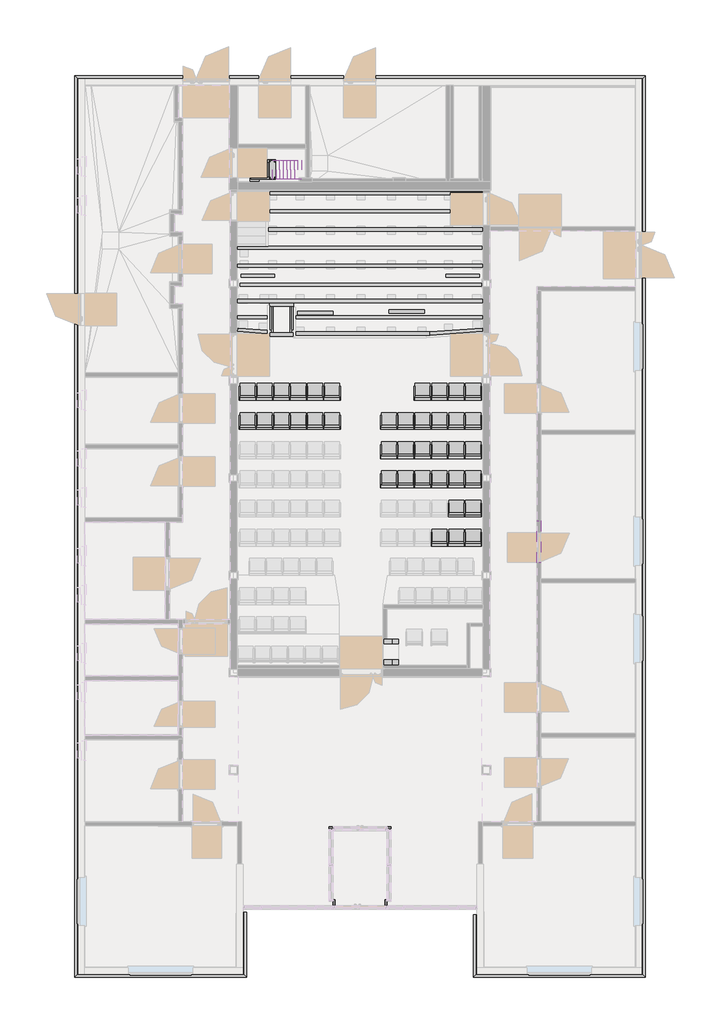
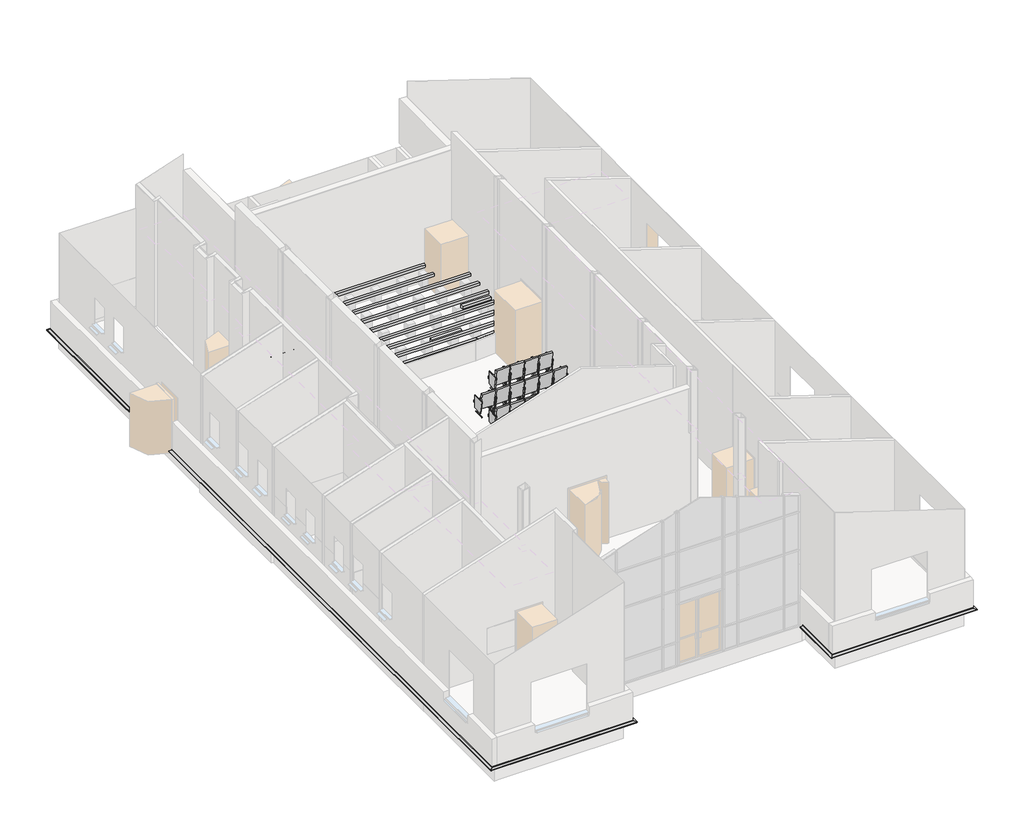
# One storey, part 12 of 12: 130 proxies.
"""IFC4 building model written with IfcOpenShell, lengths in millimetres."""

from ifc_helpers import new_model, si_unit, frame, origin, place, context, project, spatial, polyline, outline, extrude, transform, mapped, element, save
from components import generic_models_f8d5ced3, generic_models_92a117b2, generic_models_e70fa52b, generic_models_542eea26, generic_models_f3d8bb71, generic_models_49eaa156, generic_models_c3cffa9f, mechanical_equipment_249a26df, generic_models_22a26330, generic_models_2d1f44aa, generic_models_467e2e4e, generic_models_172626d7, generic_models_d41d94b2, generic_models_6c975756, generic_models_2fa727b8, generic_models_d63eb119, generic_models_33dcb4cb, generic_models_e0d11672, generic_models_34f736ff, generic_models_ccacc927, generic_models_5f790783, generic_models_916a9b82, generic_models_5b770bf9, generic_models_e5449c6c, generic_models_ce911dc9, generic_models_37c17f33, generic_models_7b0d3cbc, generic_models_94b8cab4, generic_models_9285a14d, generic_models_1dc8325f, generic_models_6abca7a8, generic_models_34106eca, generic_models_431289df, generic_models_d80d0d0e, generic_models_37b758cd, generic_models_313b4dc4, generic_models_b17718e9, entourage_e203a073, generic_models_e4dd3465, generic_models_43c456f0, generic_models_4036496e, generic_models_f3fc682a

model = new_model("IFC4")

# Units and contexts
model_context = context("Model", 3, world=origin())
ifc_project = project(units=[si_unit("LENGTHUNIT", "METRE", prefix="MILLI")], contexts=[model_context])

# Site, building, storey
site = spatial("IfcSite", under=ifc_project)
building = spatial("IfcBuilding", under=site)
storey = spatial("IfcBuildingStorey", under=building, Name="Этаж 01", Elevation=0.0)

# Proxies
placement = place(None, origin())
element("IfcBuildingElementProxy", 1, Name="Брус : 100х100", ObjectType="Брус : 100х100", at=placement, inside=storey, context=model_context, shape_type="SweptSolid", body=[
    extrude(outline(polyline([(6414.4908738, 19405.0), (6414.4908738, 19505.0), (10560.8018559, 19505.0), (10557.122865, 19504.7281928), (10564.4908738, 19405.0), (6414.4908738, 19405.0)])), frame((0.0, 0.0, 640.0), z_axis=(0.0, 0.0, 1.0), x_axis=(1.0, 0.0, 0.0)), (0.0, 0.0, 1.0), 100.0),
])
generic_models_shape = generic_models_f8d5ced3(model_context)
element("IfcBuildingElementProxy", 2, Name="Перемычка_ЖБ_центр_ГОСТ_948-2016_(ОбМодель_Осн-Стена) : 3ПБ13-37", ObjectType="Перемычка_ЖБ_центр_ГОСТ_948-2016_(ОбМодель_Осн-Стена) : 3ПБ13-37", at=placement, inside=storey, context=model_context, shape_type="MappedRepresentation", body=[
    mapped(generic_models_shape, transform((13886.2019131, 12875.68555, 0.0), x_axis=(0.0, 1.0, 0.0), y_axis=(-1.0, 0.0, 0.0), z_axis=(0.0, 0.0, 1.0))),
])
generic_models_2_shape = generic_models_92a117b2(model_context)
element("IfcBuildingElementProxy", 3, Name="Карниз1 : Карниз", ObjectType="Карниз1 : Карниз", at=placement, inside=storey, context=model_context, shape_type="MappedRepresentation", body=[
    mapped(generic_models_2_shape, transform((0.0, 0.0, 0.0), x_axis=(1.0, 0.0, 0.0), y_axis=(0.0, 1.0, 0.0), z_axis=(0.0, 0.0, 1.0))),
])
generic_models_3_shape = generic_models_e70fa52b(model_context)
element("IfcBuildingElementProxy", 4, Name="Карниз2 : Карниз", ObjectType="Карниз2 : Карниз", at=placement, inside=storey, context=model_context, shape_type="MappedRepresentation", body=[
    mapped(generic_models_3_shape, transform((0.0, 0.0, 0.0), x_axis=(1.0, 0.0, 0.0), y_axis=(0.0, 1.0, 0.0), z_axis=(0.0, 0.0, 1.0))),
])
generic_models_4_shape = generic_models_542eea26(model_context)
element("IfcBuildingElementProxy", 5, Name="Карниз3 : Карниз", ObjectType="Карниз3 : Карниз", at=placement, inside=storey, context=model_context, shape_type="MappedRepresentation", body=[
    mapped(generic_models_4_shape, transform((0.0, 0.0, 0.0), x_axis=(1.0, 0.0, 0.0), y_axis=(0.0, 1.0, 0.0), z_axis=(0.0, 0.0, 1.0))),
])
generic_models_5_shape = generic_models_f3d8bb71(model_context)
element("IfcBuildingElementProxy", 6, Name="Карниз4 : Карниз", ObjectType="Карниз4 : Карниз", at=placement, inside=storey, context=model_context, shape_type="MappedRepresentation", body=[
    mapped(generic_models_5_shape, transform((0.0, 50.0, 0.0), x_axis=(1.0, 0.0, 0.0), y_axis=(0.0, 1.0, 0.0), z_axis=(0.0, 0.0, 1.0))),
])
generic_models_6_shape = generic_models_49eaa156(model_context)
element("IfcBuildingElementProxy", 7, Name="Карниз5 : Карниз", ObjectType="Карниз5 : Карниз", at=placement, inside=storey, context=model_context, shape_type="MappedRepresentation", body=[
    mapped(generic_models_6_shape, transform((0.0, 50.0, 0.0), x_axis=(1.0, 0.0, 0.0), y_axis=(0.0, 1.0, 0.0), z_axis=(0.0, 0.0, 1.0))),
])
generic_models_7_shape = generic_models_c3cffa9f(model_context)
element("IfcBuildingElementProxy", 8, Name="Карниз6 : Карниз", ObjectType="Карниз6 : Карниз", at=placement, inside=storey, context=model_context, shape_type="MappedRepresentation", body=[
    mapped(generic_models_7_shape, transform((0.0, 0.0, 0.0), x_axis=(1.0, 0.0, 0.0), y_axis=(0.0, 1.0, 0.0), z_axis=(0.0, 0.0, 1.0))),
])
mechanical_equipment_shape = mechanical_equipment_249a26df(model_context)
element("IfcBuildingElementProxy", 9, Name="Кресло_для_Зрительного_Зала_откидное : Кресло для зрительного зала", ObjectType="Кресло_для_Зрительного_Зала_откидное : Кресло для зрительного зала", at=placement, inside=storey, context=model_context, shape_type="MappedRepresentation", body=[
    mapped(mechanical_equipment_shape, transform((4935.7752906, 17601.0428648, 0.0), x_axis=(0.0, 1.0, 0.0), y_axis=(-1.0, 0.0, 0.0), z_axis=(0.0, 0.0, 1.0))),
])
element("IfcBuildingElementProxy", 10, Name="Кресло_для_Зрительного_Зала_откидное : Кресло для зрительного зала", ObjectType="Кресло_для_Зрительного_Зала_откидное : Кресло для зрительного зала", at=placement, inside=storey, context=model_context, shape_type="MappedRepresentation", body=[
    mapped(mechanical_equipment_shape, transform((5455.4869141, 17601.0428648, 0.0), x_axis=(0.0, 1.0, 0.0), y_axis=(-1.0, 0.0, 0.0), z_axis=(0.0, 0.0, 1.0))),
])
element("IfcBuildingElementProxy", 11, Name="Кресло_для_Зрительного_Зала_откидное : Кресло для зрительного зала", ObjectType="Кресло_для_Зрительного_Зала_откидное : Кресло для зрительного зала", at=placement, inside=storey, context=model_context, shape_type="MappedRepresentation", body=[
    mapped(mechanical_equipment_shape, transform((5975.1985376, 17601.0428648, 0.0), x_axis=(0.0, 1.0, 0.0), y_axis=(-1.0, 0.0, 0.0), z_axis=(0.0, 0.0, 1.0))),
])
element("IfcBuildingElementProxy", 12, Name="Кресло_для_Зрительного_Зала_откидное : Кресло для зрительного зала", ObjectType="Кресло_для_Зрительного_Зала_откидное : Кресло для зрительного зала", at=placement, inside=storey, context=model_context, shape_type="MappedRepresentation", body=[
    mapped(mechanical_equipment_shape, transform((6494.9101612, 17601.0428648, 0.0), x_axis=(0.0, 1.0, 0.0), y_axis=(-1.0, 0.0, 0.0), z_axis=(0.0, 0.0, 1.0))),
])
element("IfcBuildingElementProxy", 13, Name="Кресло_для_Зрительного_Зала_откидное : Кресло для зрительного зала", ObjectType="Кресло_для_Зрительного_Зала_откидное : Кресло для зрительного зала", at=placement, inside=storey, context=model_context, shape_type="MappedRepresentation", body=[
    mapped(mechanical_equipment_shape, transform((7014.6217847, 17601.0428648, 0.0), x_axis=(0.0, 1.0, 0.0), y_axis=(-1.0, 0.0, 0.0), z_axis=(0.0, 0.0, 1.0))),
])
element("IfcBuildingElementProxy", 14, Name="Кресло_для_Зрительного_Зала_откидное : Кресло для зрительного зала", ObjectType="Кресло_для_Зрительного_Зала_откидное : Кресло для зрительного зала", at=placement, inside=storey, context=model_context, shape_type="MappedRepresentation", body=[
    mapped(mechanical_equipment_shape, transform((7534.3334082, 17601.0428648, 0.0), x_axis=(0.0, 1.0, 0.0), y_axis=(-1.0, 0.0, 0.0), z_axis=(0.0, 0.0, 1.0))),
])
element("IfcBuildingElementProxy", 15, Name="Кресло_для_Зрительного_Зала_откидное : Кресло для зрительного зала", ObjectType="Кресло_для_Зрительного_Зала_откидное : Кресло для зрительного зала", at=placement, inside=storey, context=model_context, shape_type="MappedRepresentation", body=[
    mapped(mechanical_equipment_shape, transform((4935.7752906, 16700.0008486, 0.0), x_axis=(0.0, 1.0, 0.0), y_axis=(-1.0, 0.0, 0.0), z_axis=(0.0, 0.0, 1.0))),
])
element("IfcBuildingElementProxy", 16, Name="Кресло_для_Зрительного_Зала_откидное : Кресло для зрительного зала", ObjectType="Кресло_для_Зрительного_Зала_откидное : Кресло для зрительного зала", at=placement, inside=storey, context=model_context, shape_type="MappedRepresentation", body=[
    mapped(mechanical_equipment_shape, transform((5455.4869141, 16700.0008486, 0.0), x_axis=(0.0, 1.0, 0.0), y_axis=(-1.0, 0.0, 0.0), z_axis=(0.0, 0.0, 1.0))),
])
element("IfcBuildingElementProxy", 17, Name="Кресло_для_Зрительного_Зала_откидное : Кресло для зрительного зала", ObjectType="Кресло_для_Зрительного_Зала_откидное : Кресло для зрительного зала", at=placement, inside=storey, context=model_context, shape_type="MappedRepresentation", body=[
    mapped(mechanical_equipment_shape, transform((5975.1985376, 16700.0008486, 0.0), x_axis=(0.0, 1.0, 0.0), y_axis=(-1.0, 0.0, 0.0), z_axis=(0.0, 0.0, 1.0))),
])
element("IfcBuildingElementProxy", 18, Name="Кресло_для_Зрительного_Зала_откидное : Кресло для зрительного зала", ObjectType="Кресло_для_Зрительного_Зала_откидное : Кресло для зрительного зала", at=placement, inside=storey, context=model_context, shape_type="MappedRepresentation", body=[
    mapped(mechanical_equipment_shape, transform((6494.9101612, 16700.0008486, 0.0), x_axis=(0.0, 1.0, 0.0), y_axis=(-1.0, 0.0, 0.0), z_axis=(0.0, 0.0, 1.0))),
])
element("IfcBuildingElementProxy", 19, Name="Кресло_для_Зрительного_Зала_откидное : Кресло для зрительного зала", ObjectType="Кресло_для_Зрительного_Зала_откидное : Кресло для зрительного зала", at=placement, inside=storey, context=model_context, shape_type="MappedRepresentation", body=[
    mapped(mechanical_equipment_shape, transform((7014.6217847, 16700.0008486, 0.0), x_axis=(0.0, 1.0, 0.0), y_axis=(-1.0, 0.0, 0.0), z_axis=(0.0, 0.0, 1.0))),
])
element("IfcBuildingElementProxy", 20, Name="Кресло_для_Зрительного_Зала_откидное : Кресло для зрительного зала", ObjectType="Кресло_для_Зрительного_Зала_откидное : Кресло для зрительного зала", at=placement, inside=storey, context=model_context, shape_type="MappedRepresentation", body=[
    mapped(mechanical_equipment_shape, transform((7534.3334082, 16700.0008486, 0.0), x_axis=(0.0, 1.0, 0.0), y_axis=(-1.0, 0.0, 0.0), z_axis=(0.0, 0.0, 1.0))),
])
element("IfcBuildingElementProxy", 21, Name="Кресло_для_Зрительного_Зала_откидное : Кресло для зрительного зала", ObjectType="Кресло_для_Зрительного_Зала_откидное : Кресло для зрительного зала", at=placement, inside=storey, context=model_context, shape_type="MappedRepresentation", body=[
    mapped(mechanical_equipment_shape, transform((9291.069541, 16698.9276427, 0.0), x_axis=(0.0, 1.0, 0.0), y_axis=(-1.0, 0.0, 0.0), z_axis=(0.0, 0.0, 1.0))),
])
element("IfcBuildingElementProxy", 22, Name="Кресло_для_Зрительного_Зала_откидное : Кресло для зрительного зала", ObjectType="Кресло_для_Зрительного_Зала_откидное : Кресло для зрительного зала", at=placement, inside=storey, context=model_context, shape_type="MappedRepresentation", body=[
    mapped(mechanical_equipment_shape, transform((9810.7811645, 16698.9276427, 0.0), x_axis=(0.0, 1.0, 0.0), y_axis=(-1.0, 0.0, 0.0), z_axis=(0.0, 0.0, 1.0))),
])
element("IfcBuildingElementProxy", 23, Name="Кресло_для_Зрительного_Зала_откидное : Кресло для зрительного зала", ObjectType="Кресло_для_Зрительного_Зала_откидное : Кресло для зрительного зала", at=placement, inside=storey, context=model_context, shape_type="MappedRepresentation", body=[
    mapped(mechanical_equipment_shape, transform((10330.4927881, 16698.9276427, 0.0), x_axis=(0.0, 1.0, 0.0), y_axis=(-1.0, 0.0, 0.0), z_axis=(0.0, 0.0, 1.0))),
])
element("IfcBuildingElementProxy", 24, Name="Кресло_для_Зрительного_Зала_откидное : Кресло для зрительного зала", ObjectType="Кресло_для_Зрительного_Зала_откидное : Кресло для зрительного зала", at=placement, inside=storey, context=model_context, shape_type="MappedRepresentation", body=[
    mapped(mechanical_equipment_shape, transform((10850.2044116, 16698.9276427, 0.0), x_axis=(0.0, 1.0, 0.0), y_axis=(-1.0, 0.0, 0.0), z_axis=(0.0, 0.0, 1.0))),
])
element("IfcBuildingElementProxy", 25, Name="Кресло_для_Зрительного_Зала_откидное : Кресло для зрительного зала", ObjectType="Кресло_для_Зрительного_Зала_откидное : Кресло для зрительного зала", at=placement, inside=storey, context=model_context, shape_type="MappedRepresentation", body=[
    mapped(mechanical_equipment_shape, transform((11369.9160351, 16698.9276427, 0.0), x_axis=(0.0, 1.0, 0.0), y_axis=(-1.0, 0.0, 0.0), z_axis=(0.0, 0.0, 1.0))),
])
element("IfcBuildingElementProxy", 26, Name="Кресло_для_Зрительного_Зала_откидное : Кресло для зрительного зала", ObjectType="Кресло_для_Зрительного_Зала_откидное : Кресло для зрительного зала", at=placement, inside=storey, context=model_context, shape_type="MappedRepresentation", body=[
    mapped(mechanical_equipment_shape, transform((11889.6276587, 16698.9276427, 0.0), x_axis=(0.0, 1.0, 0.0), y_axis=(-1.0, 0.0, 0.0), z_axis=(0.0, 0.0, 1.0))),
])
element("IfcBuildingElementProxy", 27, Name="Кресло_для_Зрительного_Зала_откидное : Кресло для зрительного зала", ObjectType="Кресло_для_Зрительного_Зала_откидное : Кресло для зрительного зала", at=placement, inside=storey, context=model_context, shape_type="MappedRepresentation", body=[
    mapped(mechanical_equipment_shape, transform((9291.069541, 15799.9852537, 0.0), x_axis=(0.0, 1.0, 0.0), y_axis=(-1.0, 0.0, 0.0), z_axis=(0.0, 0.0, 1.0))),
])
element("IfcBuildingElementProxy", 28, Name="Кресло_для_Зрительного_Зала_откидное : Кресло для зрительного зала", ObjectType="Кресло_для_Зрительного_Зала_откидное : Кресло для зрительного зала", at=placement, inside=storey, context=model_context, shape_type="MappedRepresentation", body=[
    mapped(mechanical_equipment_shape, transform((9810.7811645, 15799.9852537, 0.0), x_axis=(0.0, 1.0, 0.0), y_axis=(-1.0, 0.0, 0.0), z_axis=(0.0, 0.0, 1.0))),
])
element("IfcBuildingElementProxy", 29, Name="Кресло_для_Зрительного_Зала_откидное : Кресло для зрительного зала", ObjectType="Кресло_для_Зрительного_Зала_откидное : Кресло для зрительного зала", at=placement, inside=storey, context=model_context, shape_type="MappedRepresentation", body=[
    mapped(mechanical_equipment_shape, transform((10330.4927881, 15799.9852537, 0.0), x_axis=(0.0, 1.0, 0.0), y_axis=(-1.0, 0.0, 0.0), z_axis=(0.0, 0.0, 1.0))),
])
element("IfcBuildingElementProxy", 30, Name="Кресло_для_Зрительного_Зала_откидное : Кресло для зрительного зала", ObjectType="Кресло_для_Зрительного_Зала_откидное : Кресло для зрительного зала", at=placement, inside=storey, context=model_context, shape_type="MappedRepresentation", body=[
    mapped(mechanical_equipment_shape, transform((10850.2044116, 15799.9852537, 0.0), x_axis=(0.0, 1.0, 0.0), y_axis=(-1.0, 0.0, 0.0), z_axis=(0.0, 0.0, 1.0))),
])
element("IfcBuildingElementProxy", 31, Name="Кресло_для_Зрительного_Зала_откидное : Кресло для зрительного зала", ObjectType="Кресло_для_Зрительного_Зала_откидное : Кресло для зрительного зала", at=placement, inside=storey, context=model_context, shape_type="MappedRepresentation", body=[
    mapped(mechanical_equipment_shape, transform((11369.9160351, 15799.9852537, 0.0), x_axis=(0.0, 1.0, 0.0), y_axis=(-1.0, 0.0, 0.0), z_axis=(0.0, 0.0, 1.0))),
])
element("IfcBuildingElementProxy", 32, Name="Кресло_для_Зрительного_Зала_откидное : Кресло для зрительного зала", ObjectType="Кресло_для_Зрительного_Зала_откидное : Кресло для зрительного зала", at=placement, inside=storey, context=model_context, shape_type="MappedRepresentation", body=[
    mapped(mechanical_equipment_shape, transform((11889.6276587, 15799.9852537, 0.0), x_axis=(0.0, 1.0, 0.0), y_axis=(-1.0, 0.0, 0.0), z_axis=(0.0, 0.0, 1.0))),
])
element("IfcBuildingElementProxy", 33, Name="Кресло_для_Зрительного_Зала_откидное : Кресло для зрительного зала", ObjectType="Кресло_для_Зрительного_Зала_откидное : Кресло для зрительного зала", at=placement, inside=storey, context=model_context, shape_type="MappedRepresentation", body=[
    mapped(mechanical_equipment_shape, transform((9291.069541, 14899.7169523, 0.0), x_axis=(0.0, 1.0, 0.0), y_axis=(-1.0, 0.0, 0.0), z_axis=(0.0, 0.0, 1.0))),
])
element("IfcBuildingElementProxy", 34, Name="Кресло_для_Зрительного_Зала_откидное : Кресло для зрительного зала", ObjectType="Кресло_для_Зрительного_Зала_откидное : Кресло для зрительного зала", at=placement, inside=storey, context=model_context, shape_type="MappedRepresentation", body=[
    mapped(mechanical_equipment_shape, transform((9810.7811645, 14899.7169523, 0.0), x_axis=(0.0, 1.0, 0.0), y_axis=(-1.0, 0.0, 0.0), z_axis=(0.0, 0.0, 1.0))),
])
element("IfcBuildingElementProxy", 35, Name="Кресло_для_Зрительного_Зала_откидное : Кресло для зрительного зала", ObjectType="Кресло_для_Зрительного_Зала_откидное : Кресло для зрительного зала", at=placement, inside=storey, context=model_context, shape_type="MappedRepresentation", body=[
    mapped(mechanical_equipment_shape, transform((10330.4927881, 14899.7169523, 0.0), x_axis=(0.0, 1.0, 0.0), y_axis=(-1.0, 0.0, 0.0), z_axis=(0.0, 0.0, 1.0))),
])
element("IfcBuildingElementProxy", 36, Name="Кресло_для_Зрительного_Зала_откидное : Кресло для зрительного зала", ObjectType="Кресло_для_Зрительного_Зала_откидное : Кресло для зрительного зала", at=placement, inside=storey, context=model_context, shape_type="MappedRepresentation", body=[
    mapped(mechanical_equipment_shape, transform((10850.2044116, 14899.7169523, 0.0), x_axis=(0.0, 1.0, 0.0), y_axis=(-1.0, 0.0, 0.0), z_axis=(0.0, 0.0, 1.0))),
])
element("IfcBuildingElementProxy", 37, Name="Кресло_для_Зрительного_Зала_откидное : Кресло для зрительного зала", ObjectType="Кресло_для_Зрительного_Зала_откидное : Кресло для зрительного зала", at=placement, inside=storey, context=model_context, shape_type="MappedRepresentation", body=[
    mapped(mechanical_equipment_shape, transform((11369.9160351, 14899.7169523, 0.0), x_axis=(0.0, 1.0, 0.0), y_axis=(-1.0, 0.0, 0.0), z_axis=(0.0, 0.0, 1.0))),
])
element("IfcBuildingElementProxy", 38, Name="Кресло_для_Зрительного_Зала_откидное : Кресло для зрительного зала", ObjectType="Кресло_для_Зрительного_Зала_откидное : Кресло для зрительного зала", at=placement, inside=storey, context=model_context, shape_type="MappedRepresentation", body=[
    mapped(mechanical_equipment_shape, transform((11889.6276587, 14899.7169523, 0.0), x_axis=(0.0, 1.0, 0.0), y_axis=(-1.0, 0.0, 0.0), z_axis=(0.0, 0.0, 1.0))),
])
element("IfcBuildingElementProxy", 39, Name="Кресло_для_Зрительного_Зала_откидное : Кресло для зрительного зала", ObjectType="Кресло_для_Зрительного_Зала_откидное : Кресло для зрительного зала", at=placement, inside=storey, context=model_context, shape_type="MappedRepresentation", body=[
    mapped(mechanical_equipment_shape, transform((11369.9160351, 13999.7169523, 0.0), x_axis=(0.0, 1.0, 0.0), y_axis=(-1.0, 0.0, 0.0), z_axis=(0.0, 0.0, 1.0))),
])
element("IfcBuildingElementProxy", 40, Name="Кресло_для_Зрительного_Зала_откидное : Кресло для зрительного зала", ObjectType="Кресло_для_Зрительного_Зала_откидное : Кресло для зрительного зала", at=placement, inside=storey, context=model_context, shape_type="MappedRepresentation", body=[
    mapped(mechanical_equipment_shape, transform((11889.6276587, 13999.7169523, 0.0), x_axis=(0.0, 1.0, 0.0), y_axis=(-1.0, 0.0, 0.0), z_axis=(0.0, 0.0, 1.0))),
])
element("IfcBuildingElementProxy", 41, Name="Кресло_для_Зрительного_Зала_откидное : Кресло для зрительного зала", ObjectType="Кресло_для_Зрительного_Зала_откидное : Кресло для зрительного зала", at=placement, inside=storey, context=model_context, shape_type="MappedRepresentation", body=[
    mapped(mechanical_equipment_shape, transform((10850.2044116, 13099.7169523, 0.0), x_axis=(0.0, 1.0, 0.0), y_axis=(-1.0, 0.0, 0.0), z_axis=(0.0, 0.0, 1.0))),
])
element("IfcBuildingElementProxy", 42, Name="Кресло_для_Зрительного_Зала_откидное : Кресло для зрительного зала", ObjectType="Кресло_для_Зрительного_Зала_откидное : Кресло для зрительного зала", at=placement, inside=storey, context=model_context, shape_type="MappedRepresentation", body=[
    mapped(mechanical_equipment_shape, transform((11369.9160351, 13099.7169523, 0.0), x_axis=(0.0, 1.0, 0.0), y_axis=(-1.0, 0.0, 0.0), z_axis=(0.0, 0.0, 1.0))),
])
element("IfcBuildingElementProxy", 43, Name="Кресло_для_Зрительного_Зала_откидное : Кресло для зрительного зала", ObjectType="Кресло_для_Зрительного_Зала_откидное : Кресло для зрительного зала", at=placement, inside=storey, context=model_context, shape_type="MappedRepresentation", body=[
    mapped(mechanical_equipment_shape, transform((11889.6276587, 13099.7169523, 0.0), x_axis=(0.0, 1.0, 0.0), y_axis=(-1.0, 0.0, 0.0), z_axis=(0.0, 0.0, 1.0))),
])
element("IfcBuildingElementProxy", 44, Name="Кресло_для_Зрительного_Зала_откидное : Кресло для зрительного зала", ObjectType="Кресло_для_Зрительного_Зала_откидное : Кресло для зрительного зала", at=placement, inside=storey, context=model_context, shape_type="MappedRepresentation", body=[
    mapped(mechanical_equipment_shape, transform((10330.4927881, 17599.732547, 0.0), x_axis=(0.0, 1.0, 0.0), y_axis=(-1.0, 0.0, 0.0), z_axis=(0.0, 0.0, 1.0))),
])
element("IfcBuildingElementProxy", 45, Name="Кресло_для_Зрительного_Зала_откидное : Кресло для зрительного зала", ObjectType="Кресло_для_Зрительного_Зала_откидное : Кресло для зрительного зала", at=placement, inside=storey, context=model_context, shape_type="MappedRepresentation", body=[
    mapped(mechanical_equipment_shape, transform((10850.2044116, 17599.732547, 0.0), x_axis=(0.0, 1.0, 0.0), y_axis=(-1.0, 0.0, 0.0), z_axis=(0.0, 0.0, 1.0))),
])
element("IfcBuildingElementProxy", 46, Name="Кресло_для_Зрительного_Зала_откидное : Кресло для зрительного зала", ObjectType="Кресло_для_Зрительного_Зала_откидное : Кресло для зрительного зала", at=placement, inside=storey, context=model_context, shape_type="MappedRepresentation", body=[
    mapped(mechanical_equipment_shape, transform((11369.9160351, 17599.732547, 0.0), x_axis=(0.0, 1.0, 0.0), y_axis=(-1.0, 0.0, 0.0), z_axis=(0.0, 0.0, 1.0))),
])
element("IfcBuildingElementProxy", 47, Name="Кресло_для_Зрительного_Зала_откидное : Кресло для зрительного зала", ObjectType="Кресло_для_Зрительного_Зала_откидное : Кресло для зрительного зала", at=placement, inside=storey, context=model_context, shape_type="MappedRepresentation", body=[
    mapped(mechanical_equipment_shape, transform((11889.6276587, 17599.732547, 0.0), x_axis=(0.0, 1.0, 0.0), y_axis=(-1.0, 0.0, 0.0), z_axis=(0.0, 0.0, 1.0))),
])
generic_models_8_shape = generic_models_22a26330(model_context)
element("IfcBuildingElementProxy", 48, Name="Брус : 100х100", ObjectType="Брус : 100х100", at=placement, inside=storey, context=model_context, shape_type="MappedRepresentation", body=[
    mapped(generic_models_8_shape, transform((4615.0, 20510.0, 740.0), x_axis=(0.0, -1.0, 0.0), y_axis=(0.0, 0.0, -1.0), z_axis=(1.0, 0.0, 0.0))),
])
element("IfcBuildingElementProxy", 49, Name="Брус : 100х100", ObjectType="Брус : 100х100", at=placement, inside=storey, context=model_context, shape_type="MappedRepresentation", body=[
    mapped(generic_models_8_shape, transform((4615.0, 21590.0, 740.0), x_axis=(0.0, -1.0, 0.0), y_axis=(0.0, 0.0, -1.0), z_axis=(1.0, 0.0, 0.0))),
])
element("IfcBuildingElementProxy", 50, Name="Брус : 100х100", ObjectType="Брус : 100х100", at=placement, inside=storey, context=model_context, shape_type="MappedRepresentation", body=[
    mapped(generic_models_8_shape, transform((4605.0, 22150.0, 740.0), x_axis=(0.0, -1.0, 0.0), y_axis=(0.0, 0.0, -1.0), z_axis=(1.0, 0.0, 0.0))),
])
generic_models_9_shape = generic_models_2d1f44aa(model_context)
element("IfcBuildingElementProxy", 51, Name="Брус : 100х100", ObjectType="Брус : 100х100", at=placement, inside=storey, context=model_context, shape_type="MappedRepresentation", body=[
    mapped(generic_models_9_shape, transform((5565.0, 22710.0, 740.0), x_axis=(0.0, -1.0, 0.0), y_axis=(0.0, 0.0, -1.0), z_axis=(1.0, 0.0, 0.0))),
])
element("IfcBuildingElementProxy", 52, Name="Брус : 100х100", ObjectType="Брус : 100х100", at=placement, inside=storey, context=model_context, shape_type="MappedRepresentation", body=[
    mapped(generic_models_9_shape, transform((5565.0, 23270.0, 740.0), x_axis=(0.0, -1.0, 0.0), y_axis=(0.0, 0.0, -1.0), z_axis=(1.0, 0.0, 0.0))),
])
element("IfcBuildingElementProxy", 53, Name="Брус : 100х100", ObjectType="Брус : 100х100", at=placement, inside=storey, context=model_context, shape_type="MappedRepresentation", body=[
    mapped(generic_models_9_shape, transform((5565.0, 23830.0, 740.0), x_axis=(0.0, -1.0, 0.0), y_axis=(0.0, 0.0, -1.0), z_axis=(1.0, 0.0, 0.0))),
])
generic_models_10_shape = generic_models_467e2e4e(model_context)
element("IfcBuildingElementProxy", 54, Name="Брус : 100х100", ObjectType="Брус : 100х100", at=placement, inside=storey, context=model_context, shape_type="MappedRepresentation", body=[
    mapped(generic_models_10_shape, transform((4615.0, 20005.0, 740.0), x_axis=(0.0, -1.0, 0.0), y_axis=(0.0, 0.0, -1.0), z_axis=(1.0, 0.0, 0.0))),
])
generic_models_11_shape = generic_models_172626d7(model_context)
element("IfcBuildingElementProxy", 55, Name="Брус : 100х100", ObjectType="Брус : 100х100", at=placement, inside=storey, context=model_context, shape_type="MappedRepresentation", body=[
    mapped(generic_models_11_shape, transform((6415.0, 20005.0, 740.0), x_axis=(0.0, -1.0, 0.0), y_axis=(0.0, 0.0, -1.0), z_axis=(1.0, 0.0, 0.0))),
])
generic_models_12_shape = generic_models_d41d94b2(model_context)
element("IfcBuildingElementProxy", 56, Name="Брус 2 : Брус 2", ObjectType="Брус 2 : Брус 2", at=placement, inside=storey, context=model_context, shape_type="MappedRepresentation", body=[
    mapped(generic_models_12_shape, transform((0.0, 0.0, 0.0), x_axis=(1.0, 0.0, 0.0), y_axis=(0.0, 1.0, 0.0), z_axis=(0.0, 0.0, 1.0))),
])
generic_models_13_shape = generic_models_6c975756(model_context)
element("IfcBuildingElementProxy", 57, Name="Брус 1 : Брус 2", ObjectType="Брус 1 : Брус 2", at=placement, inside=storey, context=model_context, shape_type="MappedRepresentation", body=[
    mapped(generic_models_13_shape, transform((8834.7106761, -582.2720774, 0.0), x_axis=(0.9892965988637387, 0.14591860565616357, 0.0), y_axis=(-0.14591860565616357, 0.9892965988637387, 0.0), z_axis=(0.0, 0.0, 1.0))),
])
generic_models_14_shape = generic_models_2fa727b8(model_context)
element("IfcBuildingElementProxy", 58, Name="Брус : 100х100", ObjectType="Брус : 100х100", at=placement, inside=storey, context=model_context, shape_type="MappedRepresentation", body=[
    mapped(generic_models_14_shape, transform((6480.0, 20135.0, 740.0), x_axis=(0.0, -1.0, 0.0), y_axis=(0.0, 0.0, -1.0), z_axis=(1.0, 0.0, 0.0))),
])
element("IfcBuildingElementProxy", 59, Name="Брус : 100х100", ObjectType="Брус : 100х100", at=placement, inside=storey, context=model_context, shape_type="MappedRepresentation", body=[
    mapped(generic_models_14_shape, transform((9300.0, 20185.0, 740.0), x_axis=(0.0, -1.0, 0.0), y_axis=(0.0, 0.0, -1.0), z_axis=(1.0, 0.0, 0.0))),
])
generic_models_15_shape = generic_models_d63eb119(model_context)
element("IfcBuildingElementProxy", 60, Name="Брус : 100х100", ObjectType="Брус : 100х100", at=placement, inside=storey, context=model_context, shape_type="MappedRepresentation", body=[
    mapped(generic_models_15_shape, transform((4725.0, 21285.0, 740.0), x_axis=(0.0, -1.0, 0.0), y_axis=(0.0, 0.0, -1.0), z_axis=(1.0, 0.0, 0.0))),
])
generic_models_16_shape = generic_models_33dcb4cb(model_context)
element("IfcBuildingElementProxy", 61, Name="Брус : 100х100", ObjectType="Брус : 100х100", at=placement, inside=storey, context=model_context, shape_type="MappedRepresentation", body=[
    mapped(generic_models_16_shape, transform((11050.0, 21285.0, 740.0), x_axis=(0.0, -1.0, 0.0), y_axis=(0.0, 0.0, -1.0), z_axis=(1.0, 0.0, 0.0))),
])
generic_models_17_shape = generic_models_e0d11672(model_context)
element("IfcBuildingElementProxy", 62, Name="Брус : 100х100", ObjectType="Брус : 100х100", at=placement, inside=storey, context=model_context, shape_type="MappedRepresentation", body=[
    mapped(generic_models_17_shape, transform((4705.0, 21010.0, 740.0), x_axis=(0.0, -1.0, 0.0), y_axis=(0.0, 0.0, -1.0), z_axis=(1.0, 0.0, 0.0))),
])
generic_models_18_shape = generic_models_34f736ff(model_context)
element("IfcBuildingElementProxy", 63, Name="Брус : 100х100", ObjectType="Брус : 100х100", at=placement, inside=storey, context=model_context, shape_type="MappedRepresentation", body=[
    mapped(generic_models_18_shape, transform((5605.4496214, 20395.9144828, 100.0), x_axis=(0.0, -1.0, 0.0), y_axis=(0.0, 0.0, -1.0), z_axis=(1.0, 0.0, 0.0))),
])
element("IfcBuildingElementProxy", 64, Name="Брус : 100х100", ObjectType="Брус : 100х100", at=placement, inside=storey, context=model_context, shape_type="MappedRepresentation", body=[
    mapped(generic_models_18_shape, transform((5604.6696214, 19475.9144828, 100.0), x_axis=(0.0, -1.0, 0.0), y_axis=(0.0, 0.0, -1.0), z_axis=(1.0, 0.0, 0.0))),
])
element("IfcBuildingElementProxy", 65, Name="Брус : 100х100", ObjectType="Брус : 100х100", at=placement, inside=storey, context=model_context, shape_type="MappedRepresentation", body=[
    mapped(generic_models_18_shape, transform((5605.4496214, 20395.9144828, 740.0), x_axis=(0.0, -1.0, 0.0), y_axis=(0.0, 0.0, -1.0), z_axis=(1.0, 0.0, 0.0))),
])
generic_models_19_shape = generic_models_ccacc927(model_context)
element("IfcBuildingElementProxy", 66, Name="Брус : 100х100", ObjectType="Брус : 100х100", at=placement, inside=storey, context=model_context, shape_type="MappedRepresentation", body=[
    mapped(generic_models_19_shape, transform((4605.0, 22150.0, 100.0), x_axis=(0.0, -1.0, 0.0), y_axis=(0.0, 0.0, -1.0), z_axis=(1.0, 0.0, 0.0))),
])
element("IfcBuildingElementProxy", 67, Name="Брус : 100х100", ObjectType="Брус : 100х100", at=placement, inside=storey, context=model_context, shape_type="MappedRepresentation", body=[
    mapped(generic_models_19_shape, transform((4605.0, 22900.0, 100.0), x_axis=(0.0, -1.0, 0.0), y_axis=(0.0, 0.0, -1.0), z_axis=(1.0, 0.0, 0.0))),
])
generic_models_20_shape = generic_models_5f790783(model_context)
element("IfcBuildingElementProxy", 68, Name="Брус : 60х75", ObjectType="Брус : 60х75", at=placement, inside=storey, context=model_context, shape_type="MappedRepresentation", body=[
    mapped(generic_models_20_shape, transform((4725.0, 22062.5, 100.0), x_axis=(0.0, 1.0, 0.0), y_axis=(-1.0, 0.0, 0.0), z_axis=(0.0, 0.0, 1.0))),
])
element("IfcBuildingElementProxy", 69, Name="Брус : 60х75", ObjectType="Брус : 60х75", at=placement, inside=storey, context=model_context, shape_type="MappedRepresentation", body=[
    mapped(generic_models_20_shape, transform((5445.0, 22062.5, 100.0), x_axis=(0.0, 1.0, 0.0), y_axis=(-1.0, 0.0, 0.0), z_axis=(0.0, 0.0, 1.0))),
])
element("IfcBuildingElementProxy", 70, Name="Брус : 60х75", ObjectType="Брус : 60х75", at=placement, inside=storey, context=model_context, shape_type="MappedRepresentation", body=[
    mapped(generic_models_20_shape, transform((5725.4496214, 20308.4144828, 100.0), x_axis=(0.0, 1.0, 0.0), y_axis=(-1.0, 0.0, 0.0), z_axis=(0.0, 0.0, 1.0))),
])
element("IfcBuildingElementProxy", 71, Name="Брус : 60х75", ObjectType="Брус : 60х75", at=placement, inside=storey, context=model_context, shape_type="MappedRepresentation", body=[
    mapped(generic_models_20_shape, transform((6295.4496214, 20308.4144828, 100.0), x_axis=(0.0, 1.0, 0.0), y_axis=(-1.0, 0.0, 0.0), z_axis=(0.0, 0.0, 1.0))),
])
generic_models_21_shape = generic_models_916a9b82(model_context)
element("IfcBuildingElementProxy", 72, Name="Брус : 60х75", ObjectType="Брус : 60х75", at=placement, inside=storey, context=model_context, shape_type="MappedRepresentation", body=[
    mapped(generic_models_21_shape, transform((4725.0, 22800.0, 0.0), x_axis=(0.0, 0.0, 1.0), y_axis=(-1.0, 0.0, 0.0), z_axis=(0.0, -1.0, 0.0))),
])
element("IfcBuildingElementProxy", 73, Name="Брус : 60х75", ObjectType="Брус : 60х75", at=placement, inside=storey, context=model_context, shape_type="MappedRepresentation", body=[
    mapped(generic_models_21_shape, transform((5445.0, 22800.0, 0.0), x_axis=(0.0, 0.0, 1.0), y_axis=(-1.0, 0.0, 0.0), z_axis=(0.0, -1.0, 0.0))),
])
generic_models_22_shape = generic_models_5b770bf9(model_context)
element("IfcBuildingElementProxy", 74, Name="Брус 4 : Брус 3", ObjectType="Брус 4 : Брус 3", at=placement, inside=storey, context=model_context, shape_type="MappedRepresentation", body=[
    mapped(generic_models_22_shape, transform((0.0, 0.0, 0.0), x_axis=(1.0, 0.0, 0.0), y_axis=(0.0, 1.0, 0.0), z_axis=(0.0, 0.0, 1.0))),
])
generic_models_23_shape = generic_models_e5449c6c(model_context)
element("IfcBuildingElementProxy", 75, Name="Брус : 60х75", ObjectType="Брус : 60х75", at=placement, inside=storey, context=model_context, shape_type="MappedRepresentation", body=[
    mapped(generic_models_23_shape, transform((5725.4496214, 20295.9144828, 0.0), x_axis=(0.0, 0.0, 1.0), y_axis=(-1.0, 0.0, 0.0), z_axis=(0.0, -1.0, 0.0))),
])
element("IfcBuildingElementProxy", 76, Name="Брус : 60х75", ObjectType="Брус : 60х75", at=placement, inside=storey, context=model_context, shape_type="MappedRepresentation", body=[
    mapped(generic_models_23_shape, transform((6295.4496214, 20295.9144828, 0.0), x_axis=(0.0, 0.0, 1.0), y_axis=(-1.0, 0.0, 0.0), z_axis=(0.0, -1.0, 0.0))),
])
generic_models_24_shape = generic_models_ce911dc9(model_context)
element("IfcBuildingElementProxy", 77, Name="Брус 6 : Брус 3", ObjectType="Брус 6 : Брус 3", at=placement, inside=storey, context=model_context, shape_type="MappedRepresentation", body=[
    mapped(generic_models_24_shape, transform((0.0, -889.792724, 0.0), x_axis=(1.0, 0.0, 0.0), y_axis=(0.0, 1.0, 0.0), z_axis=(0.0, 0.0, 1.0))),
])
generic_models_25_shape = generic_models_37c17f33(model_context)
element("IfcBuildingElementProxy", 78, Name="Брус 5 : Брус 5", ObjectType="Брус 5 : Брус 5", at=placement, inside=storey, context=model_context, shape_type="MappedRepresentation", body=[
    mapped(generic_models_25_shape, transform((0.0, 0.0, 0.0), x_axis=(1.0, 0.0, 0.0), y_axis=(0.0, 1.0, 0.0), z_axis=(0.0, 0.0, 1.0))),
])
generic_models_26_shape = generic_models_7b0d3cbc(model_context)
element("IfcBuildingElementProxy", 79, Name="Брус : 150х150", ObjectType="Брус : 150х150", at=placement, inside=storey, context=model_context, shape_type="MappedRepresentation", body=[
    mapped(generic_models_26_shape, transform((4775.0, 10149.9999997, 175.0), x_axis=(-1.0, 0.0, 0.0), y_axis=(0.0, 0.0, 1.0), z_axis=(0.0, 1.0, 0.0))),
])
element("IfcBuildingElementProxy", 80, Name="Брус : 150х150", ObjectType="Брус : 150х150", at=placement, inside=storey, context=model_context, shape_type="MappedRepresentation", body=[
    mapped(generic_models_26_shape, transform((5505.0, 10149.9999997, 175.0), x_axis=(-1.0, 0.0, 0.0), y_axis=(0.0, 0.0, 1.0), z_axis=(0.0, 1.0, 0.0))),
])
element("IfcBuildingElementProxy", 81, Name="Брус : 150х150", ObjectType="Брус : 150х150", at=placement, inside=storey, context=model_context, shape_type="MappedRepresentation", body=[
    mapped(generic_models_26_shape, transform((6235.0, 10149.9999997, 175.0), x_axis=(-1.0, 0.0, 0.0), y_axis=(0.0, 0.0, 1.0), z_axis=(0.0, 1.0, 0.0))),
])
element("IfcBuildingElementProxy", 82, Name="Брус : 150х150", ObjectType="Брус : 150х150", at=placement, inside=storey, context=model_context, shape_type="MappedRepresentation", body=[
    mapped(generic_models_26_shape, transform((6965.0, 10149.9999997, 175.0), x_axis=(-1.0, 0.0, 0.0), y_axis=(0.0, 0.0, 1.0), z_axis=(0.0, 1.0, 0.0))),
])
element("IfcBuildingElementProxy", 83, Name="Брус : 150х150", ObjectType="Брус : 150х150", at=placement, inside=storey, context=model_context, shape_type="MappedRepresentation", body=[
    mapped(generic_models_26_shape, transform((7720.0, 10149.9999997, 175.0), x_axis=(-1.0, 0.0, 0.0), y_axis=(0.0, 0.0, 1.0), z_axis=(0.0, 1.0, 0.0))),
])
generic_models_27_shape = generic_models_94b8cab4(model_context)
element("IfcBuildingElementProxy", 84, Name="Брус : 150х150", ObjectType="Брус : 150х150", at=placement, inside=storey, context=model_context, shape_type="MappedRepresentation", body=[
    mapped(generic_models_27_shape, transform((4775.0, 9244.9999997, 355.0), x_axis=(-1.0, 0.0, 0.0), y_axis=(0.0, 0.0, 1.0), z_axis=(0.0, 1.0, 0.0))),
])
element("IfcBuildingElementProxy", 85, Name="Брус : 150х150", ObjectType="Брус : 150х150", at=placement, inside=storey, context=model_context, shape_type="MappedRepresentation", body=[
    mapped(generic_models_27_shape, transform((5505.0, 9244.9999997, 355.0), x_axis=(-1.0, 0.0, 0.0), y_axis=(0.0, 0.0, 1.0), z_axis=(0.0, 1.0, 0.0))),
])
element("IfcBuildingElementProxy", 86, Name="Брус : 150х150", ObjectType="Брус : 150х150", at=placement, inside=storey, context=model_context, shape_type="MappedRepresentation", body=[
    mapped(generic_models_27_shape, transform((6235.0, 9244.9999997, 355.0), x_axis=(-1.0, 0.0, 0.0), y_axis=(0.0, 0.0, 1.0), z_axis=(0.0, 1.0, 0.0))),
])
element("IfcBuildingElementProxy", 87, Name="Брус : 150х150", ObjectType="Брус : 150х150", at=placement, inside=storey, context=model_context, shape_type="MappedRepresentation", body=[
    mapped(generic_models_27_shape, transform((6965.0, 9244.9999997, 355.0), x_axis=(-1.0, 0.0, 0.0), y_axis=(0.0, 0.0, 1.0), z_axis=(0.0, 1.0, 0.0))),
])
element("IfcBuildingElementProxy", 88, Name="Брус : 150х150", ObjectType="Брус : 150х150", at=placement, inside=storey, context=model_context, shape_type="MappedRepresentation", body=[
    mapped(generic_models_27_shape, transform((7720.0, 9244.9999997, 355.0), x_axis=(-1.0, 0.0, 0.0), y_axis=(0.0, 0.0, 1.0), z_axis=(0.0, 1.0, 0.0))),
])
generic_models_28_shape = generic_models_9285a14d(model_context)
element("IfcBuildingElementProxy", 89, Name="Брус : 150х150", ObjectType="Брус : 150х150", at=placement, inside=storey, context=model_context, shape_type="MappedRepresentation", body=[
    mapped(generic_models_28_shape, transform((12175.0, 10624.9999997, 355.0), x_axis=(-1.0, 0.0, 0.0), y_axis=(0.0, 0.0, 1.0), z_axis=(0.0, 1.0, 0.0))),
])
generic_models_29_shape = generic_models_1dc8325f(model_context)
element("IfcBuildingElementProxy", 90, Name="Брус : 150х150", ObjectType="Брус : 150х150", at=placement, inside=storey, context=model_context, shape_type="MappedRepresentation", body=[
    mapped(generic_models_29_shape, transform((9290.0, 10094.9999997, 355.0), x_axis=(-1.0, 0.0, 0.0), y_axis=(0.0, 0.0, 1.0), z_axis=(0.0, 1.0, 0.0))),
])
generic_models_30_shape = generic_models_6abca7a8(model_context)
element("IfcBuildingElementProxy", 91, Name="Брус : 150х150", ObjectType="Брус : 150х150", at=placement, inside=storey, context=model_context, shape_type="MappedRepresentation", body=[
    mapped(generic_models_30_shape, transform((9805.0, 9244.9999997, 355.0), x_axis=(-1.0, 0.0, 0.0), y_axis=(0.0, 0.0, 1.0), z_axis=(0.0, 1.0, 0.0))),
])
generic_models_31_shape = generic_models_34106eca(model_context)
element("IfcBuildingElementProxy", 92, Name="Брус : 150х150", ObjectType="Брус : 150х150", at=placement, inside=storey, context=model_context, shape_type="MappedRepresentation", body=[
    mapped(generic_models_31_shape, transform((11695.0, 9244.9999997, 355.0), x_axis=(-1.0, 0.0, 0.0), y_axis=(0.0, 0.0, 1.0), z_axis=(0.0, 1.0, 0.0))),
])
generic_models_32_shape = generic_models_431289df(model_context)
element("IfcBuildingElementProxy", 93, Name="Брус : 150х150", ObjectType="Брус : 150х150", at=placement, inside=storey, context=model_context, shape_type="MappedRepresentation", body=[
    mapped(generic_models_32_shape, transform((10955.0, 9244.9999997, 355.0), x_axis=(-1.0, 0.0, 0.0), y_axis=(0.0, 0.0, 1.0), z_axis=(0.0, 1.0, 0.0))),
])
element("IfcBuildingElementProxy", 94, Name="Брус : 150х150", ObjectType="Брус : 150х150", at=placement, inside=storey, context=model_context, shape_type="MappedRepresentation", body=[
    mapped(generic_models_32_shape, transform((10185.0, 9244.9999997, 355.0), x_axis=(-1.0, 0.0, 0.0), y_axis=(0.0, 0.0, 1.0), z_axis=(0.0, 1.0, 0.0))),
])
element("IfcBuildingElementProxy", 95, Name="Брус : 150х150", ObjectType="Брус : 150х150", at=placement, inside=storey, context=model_context, shape_type="MappedRepresentation", body=[
    mapped(generic_models_32_shape, transform((11445.0, 9244.9999997, 355.0), x_axis=(-1.0, 0.0, 0.0), y_axis=(0.0, 0.0, 1.0), z_axis=(0.0, 1.0, 0.0))),
])
generic_models_33_shape = generic_models_d80d0d0e(model_context)
element("IfcBuildingElementProxy", 96, Name="Брус : 150х150", ObjectType="Брус : 150х150", at=placement, inside=storey, context=model_context, shape_type="MappedRepresentation", body=[
    mapped(generic_models_33_shape, transform((10805.0, 10655.0, 355.0), x_axis=(0.0, -1.0, 0.0), y_axis=(0.0, 0.0, 1.0), z_axis=(-1.0, 0.0, 0.0))),
])
generic_models_34_shape = generic_models_37b758cd(model_context)
element("IfcBuildingElementProxy", 97, Name="Брус : 150х150", ObjectType="Брус : 150х150", at=placement, inside=storey, context=model_context, shape_type="MappedRepresentation", body=[
    mapped(generic_models_34_shape, transform((9655.0, 9394.9999997, -5.0), x_axis=(0.0, -1.0, 0.0), y_axis=(0.0, 0.0, 1.0), z_axis=(-1.0, 0.0, 0.0))),
])
element("IfcBuildingElementProxy", 98, Name="Брус : 150х150", ObjectType="Брус : 150х150", at=placement, inside=storey, context=model_context, shape_type="MappedRepresentation", body=[
    mapped(generic_models_34_shape, transform((9655.0, 10044.991998, -5.0), x_axis=(0.0, -1.0, 0.0), y_axis=(0.0, 0.0, 1.0), z_axis=(-1.0, 0.0, 0.0))),
])
generic_models_35_shape = generic_models_313b4dc4(model_context)
element("IfcBuildingElementProxy", 99, Name="Брус : 150х150", ObjectType="Брус : 150х150", at=placement, inside=storey, context=model_context, shape_type="MappedRepresentation", body=[
    mapped(generic_models_35_shape, transform((9655.0, 9394.9999997, 145.0), x_axis=(0.0, -1.0, 0.0), y_axis=(0.0, 0.0, 1.0), z_axis=(-1.0, 0.0, 0.0))),
])
element("IfcBuildingElementProxy", 100, Name="Брус : 150х150", ObjectType="Брус : 150х150", at=placement, inside=storey, context=model_context, shape_type="MappedRepresentation", body=[
    mapped(generic_models_35_shape, transform((9655.0, 10044.991998, 145.0), x_axis=(0.0, -1.0, 0.0), y_axis=(0.0, 0.0, 1.0), z_axis=(-1.0, 0.0, 0.0))),
])
generic_models_36_shape = generic_models_b17718e9(model_context)
element("IfcBuildingElementProxy", 101, Name="Брус : 150х150", ObjectType="Брус : 150х150", at=placement, inside=storey, context=model_context, shape_type="MappedRepresentation", body=[
    mapped(generic_models_36_shape, transform((9655.0, 9244.9999997, 145.0), x_axis=(1.0, 0.0, 0.0), y_axis=(0.0, 1.0, 0.0), z_axis=(0.0, 0.0, 1.0))),
])
element("IfcBuildingElementProxy", 102, Name="Брус : 150х150", ObjectType="Брус : 150х150", at=placement, inside=storey, context=model_context, shape_type="MappedRepresentation", body=[
    mapped(generic_models_36_shape, transform((10035.0, 9244.9999997, 145.0), x_axis=(1.0, 0.0, 0.0), y_axis=(0.0, 1.0, 0.0), z_axis=(0.0, 0.0, 1.0))),
])
element("IfcBuildingElementProxy", 103, Name="Брус : 150х150", ObjectType="Брус : 150х150", at=placement, inside=storey, context=model_context, shape_type="MappedRepresentation", body=[
    mapped(generic_models_36_shape, transform((10805.0, 9244.9999997, 145.0), x_axis=(1.0, 0.0, 0.0), y_axis=(0.0, 1.0, 0.0), z_axis=(0.0, 0.0, 1.0))),
])
element("IfcBuildingElementProxy", 104, Name="Брус : 150х150", ObjectType="Брус : 150х150", at=placement, inside=storey, context=model_context, shape_type="MappedRepresentation", body=[
    mapped(generic_models_36_shape, transform((11295.0, 9244.9999997, 145.0), x_axis=(1.0, 0.0, 0.0), y_axis=(0.0, 1.0, 0.0), z_axis=(0.0, 0.0, 1.0))),
])
element("IfcBuildingElementProxy", 105, Name="Брус : 150х150", ObjectType="Брус : 150х150", at=placement, inside=storey, context=model_context, shape_type="MappedRepresentation", body=[
    mapped(generic_models_36_shape, transform((11545.0, 9244.9999997, 145.0), x_axis=(1.0, 0.0, 0.0), y_axis=(0.0, 1.0, 0.0), z_axis=(0.0, 0.0, 1.0))),
])
element("IfcBuildingElementProxy", 106, Name="Брус : 150х150", ObjectType="Брус : 150х150", at=placement, inside=storey, context=model_context, shape_type="MappedRepresentation", body=[
    mapped(generic_models_36_shape, transform((11545.0, 10624.9999997, 145.0), x_axis=(1.0, 0.0, 0.0), y_axis=(0.0, 1.0, 0.0), z_axis=(0.0, 0.0, 1.0))),
])
element("IfcBuildingElementProxy", 107, Name="Брус : 150х150", ObjectType="Брус : 150х150", at=placement, inside=storey, context=model_context, shape_type="MappedRepresentation", body=[
    mapped(generic_models_36_shape, transform((11295.0, 10899.9999997, 145.0), x_axis=(1.0, 0.0, 0.0), y_axis=(0.0, 1.0, 0.0), z_axis=(0.0, 0.0, 1.0))),
])
element("IfcBuildingElementProxy", 108, Name="Брус : 150х150", ObjectType="Брус : 150х150", at=placement, inside=storey, context=model_context, shape_type="MappedRepresentation", body=[
    mapped(generic_models_36_shape, transform((10805.0, 10899.9999997, 145.0), x_axis=(1.0, 0.0, 0.0), y_axis=(0.0, 1.0, 0.0), z_axis=(0.0, 0.0, 1.0))),
])
element("IfcBuildingElementProxy", 109, Name="Брус : 150х150", ObjectType="Брус : 150х150", at=placement, inside=storey, context=model_context, shape_type="MappedRepresentation", body=[
    mapped(generic_models_36_shape, transform((10035.0, 10899.7875056, 145.0), x_axis=(1.0, 0.0, 0.0), y_axis=(0.0, 1.0, 0.0), z_axis=(0.0, 0.0, 1.0))),
])
element("IfcBuildingElementProxy", 110, Name="Брус : 150х150", ObjectType="Брус : 150х150", at=placement, inside=storey, context=model_context, shape_type="MappedRepresentation", body=[
    mapped(generic_models_36_shape, transform((9140.0, 10899.9999997, 145.0), x_axis=(1.0, 0.0, 0.0), y_axis=(0.0, 1.0, 0.0), z_axis=(0.0, 0.0, 1.0))),
])
element("IfcBuildingElementProxy", 111, Name="Брус : 150х150", ObjectType="Брус : 150х150", at=placement, inside=storey, context=model_context, shape_type="MappedRepresentation", body=[
    mapped(generic_models_36_shape, transform((9655.0, 10094.9999997, 145.0), x_axis=(1.0, 0.0, 0.0), y_axis=(0.0, 1.0, 0.0), z_axis=(0.0, 0.0, 1.0))),
])
element("IfcBuildingElementProxy", 112, Name="Брус : 150х150", ObjectType="Брус : 150х150", at=placement, inside=storey, context=model_context, shape_type="MappedRepresentation", body=[
    mapped(generic_models_36_shape, transform((9140.0, 10094.9999997, 145.0), x_axis=(1.0, 0.0, 0.0), y_axis=(0.0, 1.0, 0.0), z_axis=(0.0, 0.0, 1.0))),
])
element("IfcBuildingElementProxy", 113, Name="Брус : 150х150", ObjectType="Брус : 150х150", at=placement, inside=storey, context=model_context, shape_type="MappedRepresentation", body=[
    mapped(generic_models_36_shape, transform((12025.0, 10899.7875056, 145.0), x_axis=(1.0, 0.0, 0.0), y_axis=(0.0, 1.0, 0.0), z_axis=(0.0, 0.0, 1.0))),
])
entourage_shape = entourage_e203a073(model_context)
element("IfcBuildingElementProxy", 114, Name="Витраж : Витраж", ObjectType="Витраж : Витраж", at=placement, inside=storey, context=model_context, shape_type="MappedRepresentation", body=[
    mapped(entourage_shape, transform((0.0, 0.0, 0.0), x_axis=(1.0, 0.0, 0.0), y_axis=(0.0, 1.0, 0.0), z_axis=(0.0, 0.0, 1.0))),
])
generic_models_37_shape = generic_models_e4dd3465(model_context)
element("IfcBuildingElementProxy", 115, Name="ЛМ_Лист_ПВ1_(ТУ_36.26.11-5-89) : Лист ПВ1", ObjectType="ЛМ_Лист_ПВ1_(ТУ_36.26.11-5-89) : Лист ПВ1", at=placement, inside=storey, context=model_context, shape_type="MappedRepresentation", body=[
    mapped(generic_models_37_shape, transform((5561.0909091, 24799.7, 619.5324417), x_axis=(0.0, -1.0, 0.0), y_axis=(1.0, 0.0, 0.0), z_axis=(0.0, 0.0, 1.0))),
])
element("IfcBuildingElementProxy", 116, Name="ЛМ_Лист_ПВ1_(ТУ_36.26.11-5-89) : Лист ПВ1", ObjectType="ЛМ_Лист_ПВ1_(ТУ_36.26.11-5-89) : Лист ПВ1", at=placement, inside=storey, context=model_context, shape_type="MappedRepresentation", body=[
    mapped(generic_models_37_shape, transform((5675.6363636, 24799.7, 854.2986625), x_axis=(0.0, -1.0, 0.0), y_axis=(1.0, 0.0, 0.0), z_axis=(0.0, 0.0, 1.0))),
])
element("IfcBuildingElementProxy", 117, Name="ЛМ_Лист_ПВ1_(ТУ_36.26.11-5-89) : Лист ПВ1", ObjectType="ЛМ_Лист_ПВ1_(ТУ_36.26.11-5-89) : Лист ПВ1", at=placement, inside=storey, context=model_context, shape_type="MappedRepresentation", body=[
    mapped(generic_models_37_shape, transform((5790.1818182, 24799.7, 1089.0648833), x_axis=(0.0, -1.0, 0.0), y_axis=(1.0, 0.0, 0.0), z_axis=(0.0, 0.0, 1.0))),
])
element("IfcBuildingElementProxy", 118, Name="ЛМ_Лист_ПВ1_(ТУ_36.26.11-5-89) : Лист ПВ1", ObjectType="ЛМ_Лист_ПВ1_(ТУ_36.26.11-5-89) : Лист ПВ1", at=placement, inside=storey, context=model_context, shape_type="MappedRepresentation", body=[
    mapped(generic_models_37_shape, transform((5904.7272727, 24799.7, 1323.8311041), x_axis=(0.0, -1.0, 0.0), y_axis=(1.0, 0.0, 0.0), z_axis=(0.0, 0.0, 1.0))),
])
element("IfcBuildingElementProxy", 119, Name="ЛМ_Лист_ПВ1_(ТУ_36.26.11-5-89) : Лист ПВ1", ObjectType="ЛМ_Лист_ПВ1_(ТУ_36.26.11-5-89) : Лист ПВ1", at=placement, inside=storey, context=model_context, shape_type="MappedRepresentation", body=[
    mapped(generic_models_37_shape, transform((6019.2727273, 24799.7, 1558.597325), x_axis=(0.0, -1.0, 0.0), y_axis=(1.0, 0.0, 0.0), z_axis=(0.0, 0.0, 1.0))),
])
element("IfcBuildingElementProxy", 120, Name="ЛМ_Лист_ПВ1_(ТУ_36.26.11-5-89) : Лист ПВ1", ObjectType="ЛМ_Лист_ПВ1_(ТУ_36.26.11-5-89) : Лист ПВ1", at=placement, inside=storey, context=model_context, shape_type="MappedRepresentation", body=[
    mapped(generic_models_37_shape, transform((6133.8181818, 24799.7, 1793.3635458), x_axis=(0.0, -1.0, 0.0), y_axis=(1.0, 0.0, 0.0), z_axis=(0.0, 0.0, 1.0))),
])
element("IfcBuildingElementProxy", 121, Name="ЛМ_Лист_ПВ1_(ТУ_36.26.11-5-89) : Лист ПВ1", ObjectType="ЛМ_Лист_ПВ1_(ТУ_36.26.11-5-89) : Лист ПВ1", at=placement, inside=storey, context=model_context, shape_type="MappedRepresentation", body=[
    mapped(generic_models_37_shape, transform((6248.3636364, 24799.7, 2028.1297666), x_axis=(0.0, -1.0, 0.0), y_axis=(1.0, 0.0, 0.0), z_axis=(0.0, 0.0, 1.0))),
])
element("IfcBuildingElementProxy", 122, Name="ЛМ_Лист_ПВ1_(ТУ_36.26.11-5-89) : Лист ПВ1", ObjectType="ЛМ_Лист_ПВ1_(ТУ_36.26.11-5-89) : Лист ПВ1", at=placement, inside=storey, context=model_context, shape_type="MappedRepresentation", body=[
    mapped(generic_models_37_shape, transform((6362.9090909, 24799.7, 2262.8959874), x_axis=(0.0, -1.0, 0.0), y_axis=(1.0, 0.0, 0.0), z_axis=(0.0, 0.0, 1.0))),
])
element("IfcBuildingElementProxy", 123, Name="ЛМ_Лист_ПВ1_(ТУ_36.26.11-5-89) : Лист ПВ1", ObjectType="ЛМ_Лист_ПВ1_(ТУ_36.26.11-5-89) : Лист ПВ1", at=placement, inside=storey, context=model_context, shape_type="MappedRepresentation", body=[
    mapped(generic_models_37_shape, transform((6477.4545455, 24799.7, 2497.6622083), x_axis=(0.0, -1.0, 0.0), y_axis=(1.0, 0.0, 0.0), z_axis=(0.0, 0.0, 1.0))),
])
element("IfcBuildingElementProxy", 124, Name="ЛМ_Лист_ПВ1_(ТУ_36.26.11-5-89) : Лист ПВ1", ObjectType="ЛМ_Лист_ПВ1_(ТУ_36.26.11-5-89) : Лист ПВ1", at=placement, inside=storey, context=model_context, shape_type="MappedRepresentation", body=[
    mapped(generic_models_37_shape, transform((5332.0, 24799.7, 150.0), x_axis=(0.0, -1.0, 0.0), y_axis=(1.0, 0.0, 0.0), z_axis=(0.0, 0.0, 1.0))),
])
element("IfcBuildingElementProxy", 125, Name="ЛМ_Лист_ПВ1_(ТУ_36.26.11-5-89) : Лист ПВ1", ObjectType="ЛМ_Лист_ПВ1_(ТУ_36.26.11-5-89) : Лист ПВ1", at=placement, inside=storey, context=model_context, shape_type="MappedRepresentation", body=[
    mapped(generic_models_37_shape, transform((6592.0, 24799.7, 2732.4284291), x_axis=(0.0, -1.0, 0.0), y_axis=(1.0, 0.0, 0.0), z_axis=(0.0, 0.0, 1.0))),
])
element("IfcBuildingElementProxy", 126, Name="ЛМ_Лист_ПВ1_(ТУ_36.26.11-5-89) : Лист ПВ1", ObjectType="ЛМ_Лист_ПВ1_(ТУ_36.26.11-5-89) : Лист ПВ1", at=placement, inside=storey, context=model_context, shape_type="MappedRepresentation", body=[
    mapped(generic_models_37_shape, transform((5446.5454545, 24799.7, 384.7662208), x_axis=(0.0, -1.0, 0.0), y_axis=(1.0, 0.0, 0.0), z_axis=(0.0, 0.0, 1.0))),
])
generic_models_38_shape = generic_models_43c456f0(model_context)
element("IfcBuildingElementProxy", 127, Name="ЛМ_Швеллер_16П_(ОбМодель_Общ) : 16П", ObjectType="ЛМ_Швеллер_16П_(ОбМодель_Общ) : 16П", at=placement, inside=storey, context=model_context, shape_type="MappedRepresentation", body=[
    mapped(generic_models_38_shape, transform((5032.0, 24205.0, 0.0), x_axis=(1.0, 0.0, 0.0), y_axis=(0.0, 1.0, 0.0), z_axis=(0.0, 0.0, 1.0))),
])
generic_models_39_shape = generic_models_4036496e(model_context)
element("IfcBuildingElementProxy", 128, Name="ЛМ_Швеллер_16П_(ОбМодель_Общ) : 16П", ObjectType="ЛМ_Швеллер_16П_(ОбМодель_Общ) : 16П", at=placement, inside=storey, context=model_context, shape_type="MappedRepresentation", body=[
    mapped(generic_models_39_shape, transform((5032.0, 24805.3, 0.0), x_axis=(1.0, 0.0, 0.0), y_axis=(0.0, 1.0, 0.0), z_axis=(0.0, 0.0, 1.0))),
])
generic_models_40_shape = generic_models_f3fc682a(model_context)
element("IfcBuildingElementProxy", 129, Name="ЛМ_Лист_Прокатный_ГОСТ_19903-2015_(ОбМодель_Общ) : Лист", ObjectType="ЛМ_Лист_Прокатный_ГОСТ_19903-2015_(ОбМодель_Общ) : Лист", at=placement, inside=storey, context=model_context, shape_type="MappedRepresentation", body=[
    mapped(generic_models_40_shape, transform((5145.0, 24237.15, 6.0), x_axis=(1.0, 0.0, 0.0), y_axis=(0.0, 0.0, 1.0), z_axis=(0.0, -1.0, 0.0))),
])
element("IfcBuildingElementProxy", 130, Name="ЛМ_Лист_Прокатный_ГОСТ_19903-2015_(ОбМодель_Общ) : Лист", ObjectType="ЛМ_Лист_Прокатный_ГОСТ_19903-2015_(ОбМодель_Общ) : Лист", at=placement, inside=storey, context=model_context, shape_type="MappedRepresentation", body=[
    mapped(generic_models_40_shape, transform((5145.0, 24773.0, 6.0), x_axis=(1.0, 0.0, 0.0), y_axis=(0.0, 0.0, 1.0), z_axis=(0.0, -1.0, 0.0))),
])

save(model, "model.ifc")
